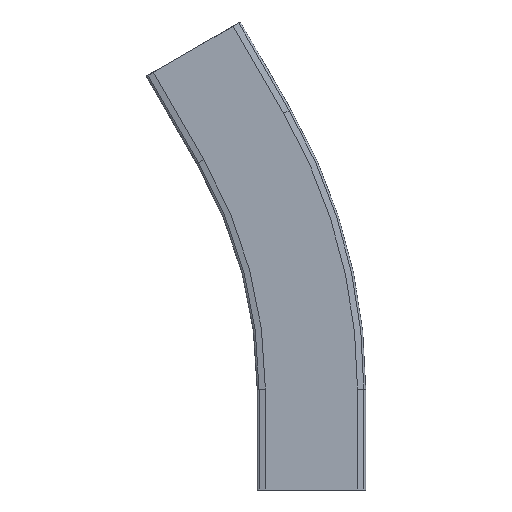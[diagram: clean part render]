
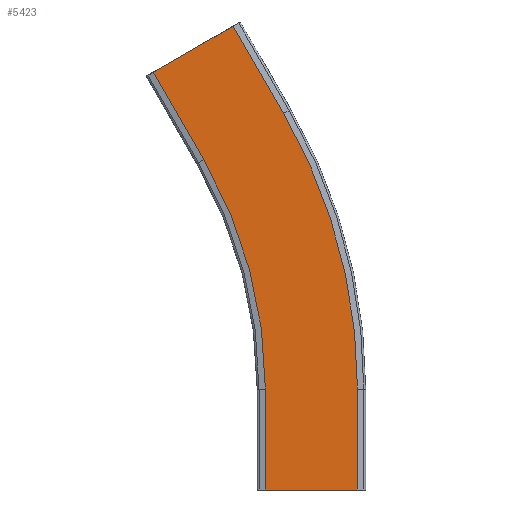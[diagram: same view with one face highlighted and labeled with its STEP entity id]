
A CAD part, front view. The second image highlights one B-rep face of the part: STEP entity #5423.
In plain terms, the highlighted planar face has unit normal (0, -1, 0).
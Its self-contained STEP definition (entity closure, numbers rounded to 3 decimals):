
#5013=CARTESIAN_POINT('',(36.5,-11.,0.0));
#5014=VERTEX_POINT('',#5013);
#5021=CARTESIAN_POINT('',(-36.5,-11.,0.0));
#5022=VERTEX_POINT('',#5021);
#5023=CARTESIAN_POINT('',(-36.5,-11.,0.0));
#5024=DIRECTION('',(1.0,0.0,0.0));
#5025=VECTOR('',#5024,73.);
#5026=LINE('',#5023,#5025);
#5027=EDGE_CURVE('',#5022,#5014,#5026,.T.);
#5053=CARTESIAN_POINT('',(-36.5,-11.,80.0));
#5054=VERTEX_POINT('',#5053);
#5068=CARTESIAN_POINT('',(-36.5,-11.,0.0));
#5069=DIRECTION('',(0.0,0.0,1.0));
#5070=VECTOR('',#5069,80.0);
#5071=LINE('',#5068,#5070);
#5072=EDGE_CURVE('',#5022,#5054,#5071,.T.);
#5082=CARTESIAN_POINT('',(36.5,-11.,80.0));
#5083=VERTEX_POINT('',#5082);
#5092=CARTESIAN_POINT('',(36.5,-11.,0.0));
#5093=DIRECTION('',(0.0,0.0,1.0));
#5094=VECTOR('',#5093,80.0);
#5095=LINE('',#5092,#5094);
#5096=EDGE_CURVE('',#5014,#5083,#5095,.T.);
#5209=CARTESIAN_POINT('',(-21.98,-11.,298.25));
#5210=VERTEX_POINT('',#5209);
#5217=CARTESIAN_POINT('',(-400.0,-11.,80.0));
#5218=DIRECTION('',(0.0,-1.0,0.0));
#5219=DIRECTION('',(1.0,0.0,0.0));
#5220=AXIS2_PLACEMENT_3D('',#5217,#5218,#5219);
#5221=CIRCLE('',#5220,436.5);
#5222=EDGE_CURVE('',#5083,#5210,#5221,.T.);
#5276=CARTESIAN_POINT('',(-85.2,-11.,261.75));
#5277=VERTEX_POINT('',#5276);
#5292=CARTESIAN_POINT('',(-400.0,-11.,80.0));
#5293=DIRECTION('',(0.0,-1.0,0.0));
#5294=DIRECTION('',(1.0,0.0,0.0));
#5295=AXIS2_PLACEMENT_3D('',#5292,#5293,#5294);
#5296=CIRCLE('',#5295,363.5);
#5297=EDGE_CURVE('',#5054,#5277,#5296,.T.);
#5307=CARTESIAN_POINT('',(-61.98,-11.,367.532));
#5308=VERTEX_POINT('',#5307);
#5315=CARTESIAN_POINT('',(-21.98,-11.,298.25));
#5316=DIRECTION('',(-0.5,0.,0.866));
#5317=VECTOR('',#5316,80.);
#5318=LINE('',#5315,#5317);
#5319=EDGE_CURVE('',#5210,#5308,#5318,.T.);
#5384=CARTESIAN_POINT('',(-125.2,-11.,331.032));
#5385=VERTEX_POINT('',#5384);
#5394=CARTESIAN_POINT('',(-85.2,-11.,261.75));
#5395=DIRECTION('',(-0.5,0.,0.866));
#5396=VECTOR('',#5395,80.);
#5397=LINE('',#5394,#5396);
#5398=EDGE_CURVE('',#5277,#5385,#5397,.T.);
#5403=CARTESIAN_POINT('',(122.74,-11.,47.588));
#5404=DIRECTION('',(0.0,-1.0,0.0));
#5405=DIRECTION('',(0.5,0.0,-0.866));
#5406=AXIS2_PLACEMENT_3D('',#5403,#5404,#5405);
#5407=PLANE('',#5406);
#5408=CARTESIAN_POINT('',(-61.98,-11.,367.532));
#5409=DIRECTION('',(-0.866,0.,-0.5));
#5410=VECTOR('',#5409,73.);
#5411=LINE('',#5408,#5410);
#5412=EDGE_CURVE('',#5308,#5385,#5411,.T.);
#5413=ORIENTED_EDGE('',*,*,#5412,.T.);
#5414=ORIENTED_EDGE('',*,*,#5398,.F.);
#5415=ORIENTED_EDGE('',*,*,#5297,.F.);
#5416=ORIENTED_EDGE('',*,*,#5072,.F.);
#5417=ORIENTED_EDGE('',*,*,#5027,.T.);
#5418=ORIENTED_EDGE('',*,*,#5096,.T.);
#5419=ORIENTED_EDGE('',*,*,#5222,.T.);
#5420=ORIENTED_EDGE('',*,*,#5319,.T.);
#5421=EDGE_LOOP('',(#5413,#5414,#5415,#5416,#5417,#5418,#5419,#5420));
#5422=FACE_OUTER_BOUND('',#5421,.T.);
#5423=ADVANCED_FACE('',(#5422),#5407,.T.);
